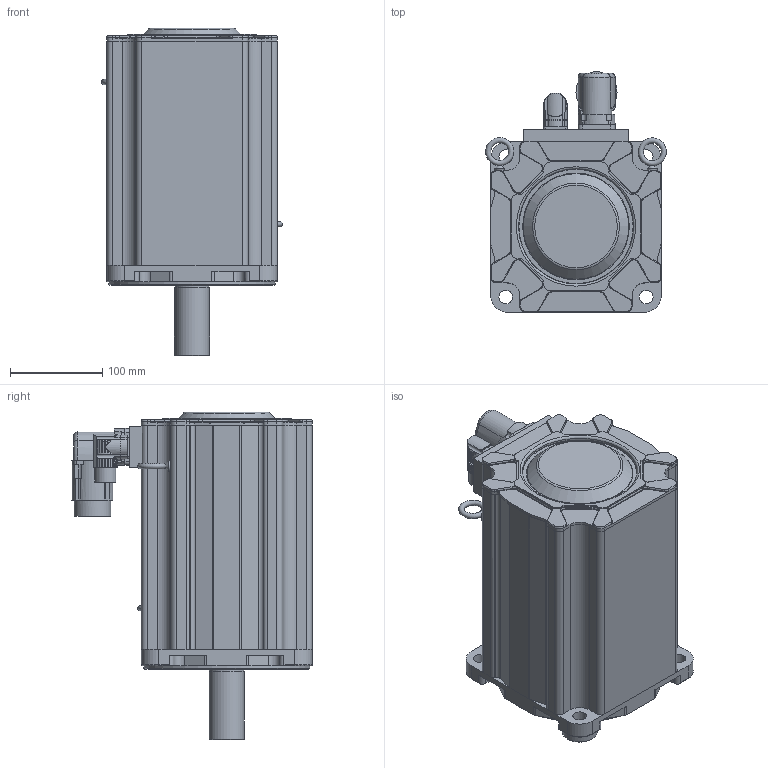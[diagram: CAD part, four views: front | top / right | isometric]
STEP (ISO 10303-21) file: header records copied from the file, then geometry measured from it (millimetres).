
FILE_DESCRIPTION((''),'2;1');
FILE_NAME('C:\CAD_work\Dummy_Modeling_Project_02-12-05\3D MODELS\MPP1906XXX_NPSN.stp','2005-12-20T17:34:38',('jevans'),(''),'Autodesk Inventor 10','Autodesk Inventor 10','');
FILE_SCHEMA(('AUTOMOTIVE_DESIGN { 1 0 10303 214 1 1 1 1 }'));
Length unit declared in the file: inch
Products named in the file (1): MPP190_MOTOR
Bounding box: 195.52 x 260.1 x 354.46 mm (x, y, z)
Volume: 8148379.2 mm3; surface area: 376206.9 mm2
Topology: 5 solids, 5 shells, 820 faces, 2086 edges, 1314 vertices
Faces by surface type: cylinder 369, plane 299, bspline 91, torus 46, cone 15
Full cylindrical faces by diameter (mm): 1.016 x17, 2 x2, 2.997 x2, 3.6 x4, 19.05 x1, 19.685 x1, 22.86 x1, 32.639 x1, 37.645 x1, 38.001 x1, 39.624 x1, 39.903 x1, 40.005 x1, 50.8 x1, 69.85 x1, 80.01 x1, 89.992 x1, 90 x1, 90.043 x1, 90.221 x1, 95.377 x1, 98.425 x1, 124.46 x1, 180.002 x1
Entity records: 28288 total; most frequent: CARTESIAN_POINT 9080, DIRECTION 4016, ORIENTED_EDGE 3946, EDGE_CURVE 1973, AXIS2_PLACEMENT_3D 1553, VERTEX_POINT 1286, EDGE_LOOP 959, VECTOR 910
